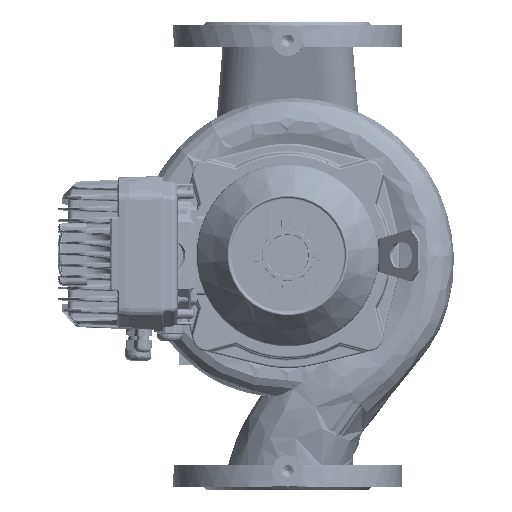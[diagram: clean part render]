
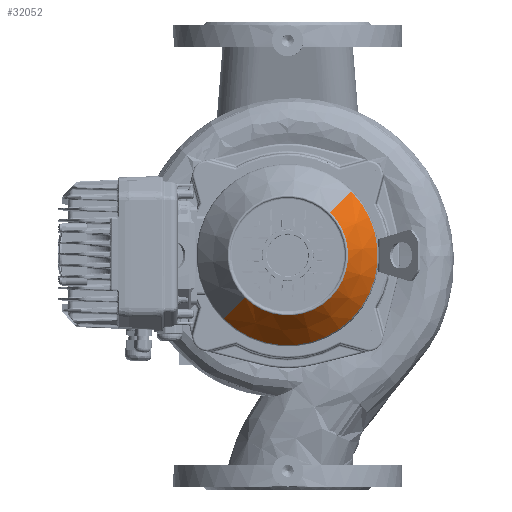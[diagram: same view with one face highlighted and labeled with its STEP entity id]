
A CAD part, top view. The second image highlights one B-rep face of the part: STEP entity #32052.
In plain terms, the highlighted conical face has half-angle 37 degrees and reference radius 58.108 mm.
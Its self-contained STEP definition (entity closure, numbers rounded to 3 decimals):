
#32052=ADVANCED_FACE('NONE',(#106019),#106020,.T.);
#106019=FACE_OUTER_BOUND('',#156503,.T.);
#106020=CONICAL_SURFACE('',#156504,58.108,0.646);
#156503=EDGE_LOOP('',(#188023,#188024,#188025,#188026));
#156504=AXIS2_PLACEMENT_3D('',#188027,#188028,#188029);
#188023=ORIENTED_EDGE('',*,*,#216125,.T.);
#188024=ORIENTED_EDGE('',*,*,#216203,.T.);
#188025=ORIENTED_EDGE('',*,*,#216126,.T.);
#188026=ORIENTED_EDGE('',*,*,#216229,.F.);
#188027=CARTESIAN_POINT('',(0.0,96.403,0.0));
#188028=DIRECTION('',(-0.0,-1.0,-0.0));
#188029=DIRECTION('',(0.0,0.0,-1.0));
#216125=EDGE_CURVE('',#306657,#306660,#306661,.T.);
#216126=EDGE_CURVE('',#306662,#306655,#306663,.T.);
#216203=EDGE_CURVE('NONE',#306660,#306662,#306794,.T.);
#216229=EDGE_CURVE('NONE',#306657,#306655,#306826,.T.);
#306655=VERTEX_POINT('',#337572);
#306657=VERTEX_POINT('NONE',#337574);
#306660=VERTEX_POINT('NONE',#337577);
#306661=LINE('',#337578,#337579);
#306662=VERTEX_POINT('',#337580);
#306663=LINE('',#337581,#337582);
#306794=CIRCLE('',#338075,86.592);
#306826=CIRCLE('',#338305,58.108);
#337572=CARTESIAN_POINT('',(0.,96.403,58.108));
#337574=CARTESIAN_POINT('',(0.,96.403,-58.108));
#337577=CARTESIAN_POINT('',(0.0,58.603,-86.592));
#337578=CARTESIAN_POINT('',(0.,96.403,-58.108));
#337579=VECTOR('',#348729,1.0);
#337580=CARTESIAN_POINT('',(0.,58.603,86.592));
#337581=CARTESIAN_POINT('',(0.,96.403,58.108));
#337582=VECTOR('',#348730,1.0);
#338075=AXIS2_PLACEMENT_3D('',#348857,#348858,#348859);
#338305=AXIS2_PLACEMENT_3D('',#348917,#348918,#348919);
#348729=DIRECTION('',(0.,-0.799,-0.602));
#348730=DIRECTION('',(0.,0.799,-0.602));
#348857=CARTESIAN_POINT('',(0.0,58.603,0.0));
#348858=DIRECTION('',(0.0,1.0,0.0));
#348859=DIRECTION('',(0.0,0.0,1.0));
#348917=CARTESIAN_POINT('',(0.0,96.403,0.0));
#348918=DIRECTION('',(0.0,1.0,0.0));
#348919=DIRECTION('',(0.0,0.0,1.0));
